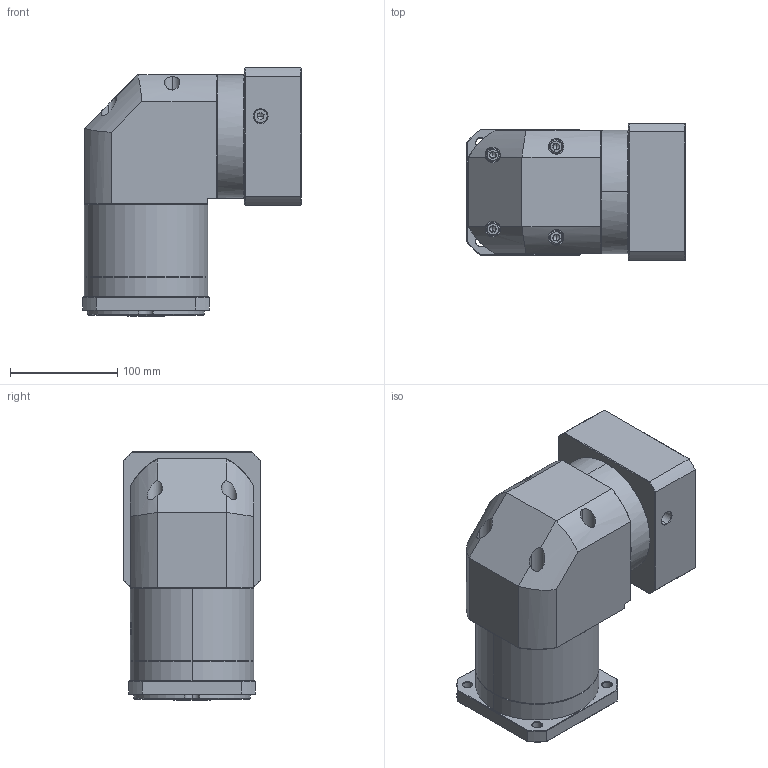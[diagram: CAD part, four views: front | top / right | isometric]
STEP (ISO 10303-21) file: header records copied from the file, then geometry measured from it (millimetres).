
FILE_DESCRIPTION (( 'STEP AP214' ), '1' );
FILE_NAME ('ZFR120A-K25-L2-P2-28-110-145-M8.step', '2023-08-27T08:16:29', ( '' ), ( '' ), 'SwSTEP 2.0', 'SolidWorks 2016', '' );
FILE_SCHEMA (( 'AUTOMOTIVE_DESIGN' ));
Length unit declared in the file: millimetre
Products named in the file (1): ZFR120A-K25-L2-P2-28-110-145-M8
Bounding box: 203.9 x 128 x 231.5 mm (x, y, z)
Volume: 3332997 mm3; surface area: 266890.6 mm2
Topology: 6 solids, 6 shells, 2211 faces, 5832 edges, 3723 vertices
Faces by surface type: plane 1055, bspline 416, cylinder 401, cone 331, torus 8
Entity records: 118766 total; most frequent: CARTESIAN_POINT 45106, ORIENTED_EDGE 11608, DIRECTION 8426, EDGE_CURVE 5804, VERTEX_POINT 3723, LINE 3110, VECTOR 3110, AXIS2_PLACEMENT_3D 2658
